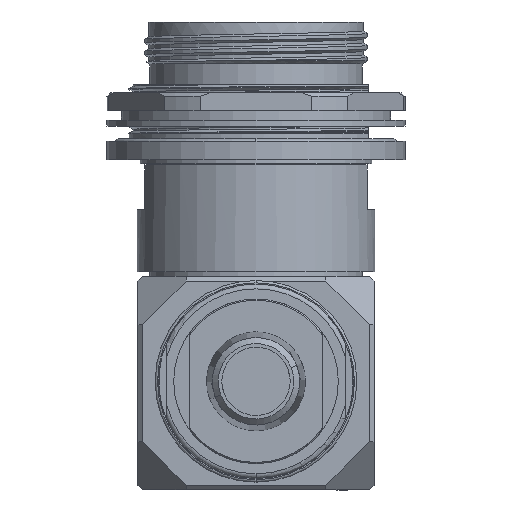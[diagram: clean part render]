
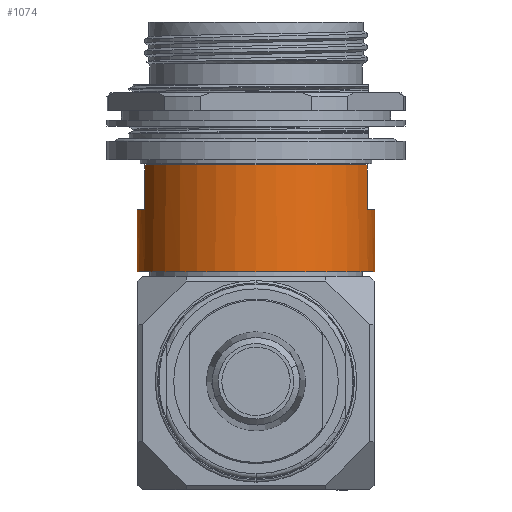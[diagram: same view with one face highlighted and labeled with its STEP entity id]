
A CAD part, front view. The second image highlights one B-rep face of the part: STEP entity #1074.
In plain terms, the highlighted cylindrical face has radius 25.209 mm (diameter 50.419 mm), a partial arc.
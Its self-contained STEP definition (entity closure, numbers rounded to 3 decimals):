
#194 = LINE ( 'NONE', #13741, #10544 ) ;
#256 = CIRCLE ( 'NONE', #19018, 25.21 ) ;
#341 = VERTEX_POINT ( 'NONE', #13894 ) ;
#463 = DIRECTION ( 'NONE',  ( 1., 0., 0. ) ) ;
#574 = CARTESIAN_POINT ( 'NONE',  ( -25.209, 0., -53.01 ) ) ;
#1074 = ADVANCED_FACE ( 'NONE', ( #15876 ), #11494, .T. ) ;
#1262 = DIRECTION ( 'NONE',  ( 0., 0., 1. ) ) ;
#1277 = VECTOR ( 'NONE', #2171, 1000. ) ;
#1416 = EDGE_CURVE ( 'NONE', #12134, #19311, #256, .T. ) ;
#1438 = CARTESIAN_POINT ( 'NONE',  ( -25.21, 0., -39.853 ) ) ;
#1516 = ORIENTED_EDGE ( 'NONE', *, *, #1416, .T. ) ;
#2171 = DIRECTION ( 'NONE',  ( 0., 0., -1. ) ) ;
#2174 = CIRCLE ( 'NONE', #3440, 25.21 ) ;
#2557 = CARTESIAN_POINT ( 'NONE',  ( 0., 0., -39.853 ) ) ;
#2649 = EDGE_CURVE ( 'NONE', #12134, #341, #4089, .T. ) ;
#3041 = EDGE_CURVE ( 'NONE', #341, #3617, #2174, .T. ) ;
#3302 = VERTEX_POINT ( 'NONE', #3457 ) ;
#3403 = CARTESIAN_POINT ( 'NONE',  ( -23.559, -8.973, -30.328 ) ) ;
#3440 = AXIS2_PLACEMENT_3D ( 'NONE', #13737, #16623, #16920 ) ;
#3457 = CARTESIAN_POINT ( 'NONE',  ( -23.559, -8.973, -39.853 ) ) ;
#3617 = VERTEX_POINT ( 'NONE', #15008 ) ;
#4089 = LINE ( 'NONE', #10271, #9473 ) ;
#4105 = LINE ( 'NONE', #13378, #12076 ) ;
#4839 = DIRECTION ( 'NONE',  ( 0., 0., -1. ) ) ;
#5398 = DIRECTION ( 'NONE',  ( 1., 0., 0. ) ) ;
#6265 = AXIS2_PLACEMENT_3D ( 'NONE', #15677, #9698, #5398 ) ;
#6331 = ORIENTED_EDGE ( 'NONE', *, *, #9212, .F. ) ;
#7335 = DIRECTION ( 'NONE',  ( 1., 0., 0. ) ) ;
#7881 = ORIENTED_EDGE ( 'NONE', *, *, #11395, .F. ) ;
#8188 = EDGE_CURVE ( 'NONE', #10389, #3302, #17896, .T. ) ;
#8717 = EDGE_LOOP ( 'NONE', ( #12930, #13965, #19433, #6331, #16308, #10993, #1516, #7881 ) ) ;
#8949 = DIRECTION ( 'NONE',  ( 0., 0., 1. ) ) ;
#9212 = EDGE_CURVE ( 'NONE', #3617, #17622, #9735, .T. ) ;
#9412 = CARTESIAN_POINT ( 'NONE',  ( 0., 0., -53.01 ) ) ;
#9473 = VECTOR ( 'NONE', #10165, 1000. ) ;
#9634 = CARTESIAN_POINT ( 'NONE',  ( 25.209, 0., -30.328 ) ) ;
#9698 = DIRECTION ( 'NONE',  ( 0., 0., -1. ) ) ;
#9735 = LINE ( 'NONE', #9634, #1277 ) ;
#10085 = DIRECTION ( 'NONE',  ( 1., 0., 0. ) ) ;
#10165 = DIRECTION ( 'NONE',  ( 0., 0., -1. ) ) ;
#10271 = CARTESIAN_POINT ( 'NONE',  ( 23.558, -8.973, -30.328 ) ) ;
#10389 = VERTEX_POINT ( 'NONE', #1438 ) ;
#10544 = VECTOR ( 'NONE', #8949, 1000. ) ;
#10993 = ORIENTED_EDGE ( 'NONE', *, *, #2649, .F. ) ;
#11395 = EDGE_CURVE ( 'NONE', #3302, #19311, #194, .T. ) ;
#11464 = CIRCLE ( 'NONE', #17514, 25.209 ) ;
#11494 = CYLINDRICAL_SURFACE ( 'NONE', #6265, 25.21 ) ;
#12076 = VECTOR ( 'NONE', #19453, 1000. ) ;
#12084 = DIRECTION ( 'NONE',  ( 0., 0., -1. ) ) ;
#12134 = VERTEX_POINT ( 'NONE', #14898 ) ;
#12930 = ORIENTED_EDGE ( 'NONE', *, *, #8188, .F. ) ;
#13378 = CARTESIAN_POINT ( 'NONE',  ( -25.21, 0., -30.328 ) ) ;
#13574 = CARTESIAN_POINT ( 'NONE',  ( 0., 0., -30.328 ) ) ;
#13737 = CARTESIAN_POINT ( 'NONE',  ( 0., 0., -39.853 ) ) ;
#13741 = CARTESIAN_POINT ( 'NONE',  ( -23.558, -8.973, -30.328 ) ) ;
#13894 = CARTESIAN_POINT ( 'NONE',  ( 23.558, -8.973, -39.853 ) ) ;
#13965 = ORIENTED_EDGE ( 'NONE', *, *, #17693, .T. ) ;
#14094 = VERTEX_POINT ( 'NONE', #574 ) ;
#14898 = CARTESIAN_POINT ( 'NONE',  ( 23.558, -8.973, -30.328 ) ) ;
#15008 = CARTESIAN_POINT ( 'NONE',  ( 25.21, 0., -39.853 ) ) ;
#15124 = EDGE_CURVE ( 'NONE', #17622, #14094, #11464, .T. ) ;
#15677 = CARTESIAN_POINT ( 'NONE',  ( 0., 0., -30.328 ) ) ;
#15876 = FACE_OUTER_BOUND ( 'NONE', #8717, .T. ) ;
#16159 = CARTESIAN_POINT ( 'NONE',  ( 25.209, 0., -53.01 ) ) ;
#16308 = ORIENTED_EDGE ( 'NONE', *, *, #3041, .F. ) ;
#16339 = AXIS2_PLACEMENT_3D ( 'NONE', #2557, #1262, #7335 ) ;
#16623 = DIRECTION ( 'NONE',  ( 0., 0., 1. ) ) ;
#16920 = DIRECTION ( 'NONE',  ( 1., 0., 0. ) ) ;
#17514 = AXIS2_PLACEMENT_3D ( 'NONE', #9412, #4839, #463 ) ;
#17622 = VERTEX_POINT ( 'NONE', #16159 ) ;
#17693 = EDGE_CURVE ( 'NONE', #10389, #14094, #4105, .T. ) ;
#17896 = CIRCLE ( 'NONE', #16339, 25.21 ) ;
#19018 = AXIS2_PLACEMENT_3D ( 'NONE', #13574, #12084, #10085 ) ;
#19311 = VERTEX_POINT ( 'NONE', #3403 ) ;
#19433 = ORIENTED_EDGE ( 'NONE', *, *, #15124, .F. ) ;
#19453 = DIRECTION ( 'NONE',  ( 0., 0., -1. ) ) ;
